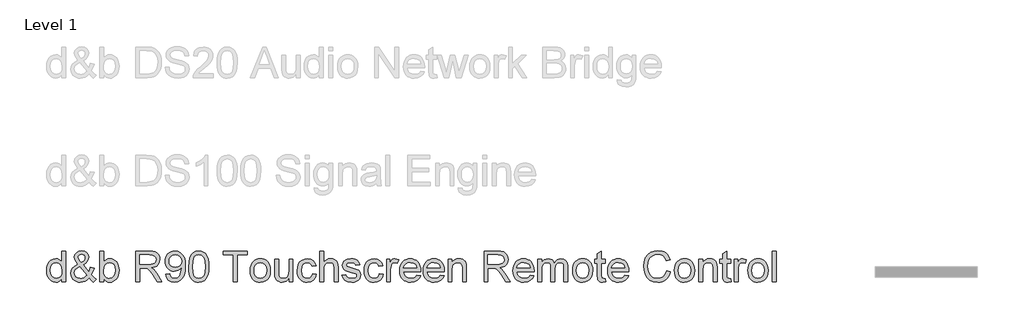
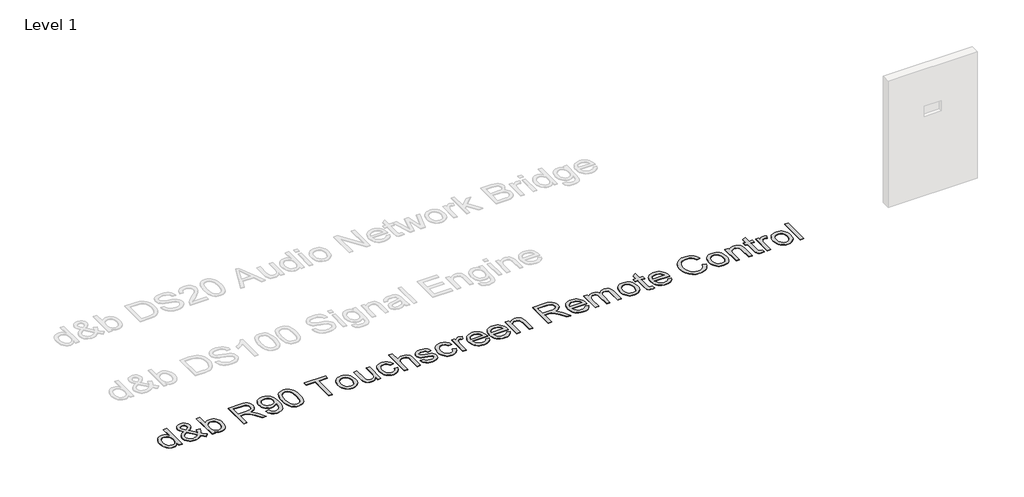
# One storey, part 2 of 14: 1 proxy.
"""IFC4 building model written with IfcOpenShell, lengths in millimetres."""

from ifc_helpers import new_model, si_unit, origin, origin_with_axes, place, context, project, spatial, polyline, outline, extrude, element, save

model = new_model("IFC4")

# Units and contexts
model_context = context("Model", 3, world=origin())
ifc_project = project(units=[si_unit("LENGTHUNIT", "METRE", prefix="MILLI")], contexts=[model_context])

# Site, building, storey
site = spatial("IfcSite", under=ifc_project)
building = spatial("IfcBuilding", under=site)
storey = spatial("IfcBuildingStorey", under=building, Name="Level 1", Elevation=0.0)

# Proxy
placement = place(None, origin())
element("IfcBuildingElementProxy", 1, Name="300mm Arial", ObjectType="300mm Arial", at=placement, inside=storey, context=model_context, shape_type="SweptSolid", body=[
    extrude(outline(polyline([(-19163.9314906, -1492.2909582), (-19163.9314906, -1456.7535575), (-19175.2024752, -1474.3613095), (-19188.8554958, -1486.9382752), (-19204.8905522, -1494.4844546), (-19223.3076446, -1496.9998477), (-19247.6614327, -1493.357816), (-19269.9550816, -1482.4317207), (-19288.827428, -1464.9849171), (-19302.9173084, -1441.7807603), (-19311.691294, -1413.7573493), (-19314.6159558, -1381.8527832), (-19311.9212202, -1350.3436904), (-19303.8370134, -1321.888018), (-19290.3725323, -1298.104447), (-19271.5369742, -1280.6116582), (-19248.7558816, -1269.8511098), (-19223.4547974, -1266.2642604), (-19205.0239095, -1268.8302373), (-19188.7267371, -1276.528168), (-19174.9127682, -1288.327983), (-19163.9314906, -1303.1996127), (-19163.9314906, -1190.9220277), (-19126.2603743, -1190.9220277), (-19126.2603743, -1492.2909582), (-19163.9314906, -1492.2909582)]), holes=[polyline([(-19276.9448395, -1381.7056304), (-19272.6958025, -1415.7807002), (-19259.9486913, -1440.0149267), (-19241.4258329, -1454.5002802), (-19219.8495539, -1459.3287314), (-19198.2824719, -1454.7210094), (-19180.228663, -1440.8978435), (-19168.0057837, -1417.6017161), (-19163.9314906, -1384.57511), (-19168.0793601, -1348.4674922), (-19180.5229686, -1323.4331224), (-19199.03663, -1308.8098131), (-19221.3946582, -1303.9353767), (-19243.1916665, -1308.616675), (-19261.0523373, -1322.6605702), (-19272.971714, -1346.784432), (-19276.9448395, -1381.7056304)])]), origin_with_axes(), (0.0, 0.0, 1.0), 5.0),
    extrude(outline(polyline([(-18896.9227385, -1455.0613003), (-18916.0709963, -1473.4094148), (-18936.8747232, -1486.5152109), (-18959.3707072, -1494.3786885), (-18983.5957366, -1496.9998477), (-19005.5766858, -1495.0592702), (-19025.166402, -1489.2375376), (-19042.3648853, -1479.53465), (-19057.1721356, -1465.9506073), (-19073.6716431, -1439.150404), (-19079.1714789, -1409.3703565), (-19074.7476979, -1382.9748233), (-19061.4763549, -1359.2648287), (-19039.4126323, -1338.2587668), (-19008.6117122, -1319.9750317), (-19034.9152749, -1281.862457), (-19041.5003626, -1253.6091197), (-19036.3132265, -1228.1700798), (-19020.7518181, -1206.2994951), (-18997.3361291, -1191.2347274), (-18968.5861512, -1186.2131382), (-18941.2341248, -1191.0139982), (-18919.3635402, -1205.4165784), (-18905.0161424, -1226.551399), (-18900.2336765, -1251.5489805), (-18903.7745407, -1272.5366484), (-18914.3971333, -1291.9424236), (-18932.1014543, -1309.7663063), (-18956.8875037, -1326.0082964), (-18902.367392, -1393.9193127), (-18893.0783716, -1374.5135374), (-18886.1070078, -1352.2014944), (-18848.4358915, -1360.3684747), (-18860.0241744, -1395.262082), (-18875.070548, -1422.3933791), (-18853.6598159, -1447.3725666), (-18829.6003334, -1468.0107465), (-18857.8536706, -1496.9998477), (-18877.0755049, -1479.4150884), (-18896.9227385, -1455.0613003)]), holes=[polyline([(-18922.1594434, -1427.911609), (-18989.4082721, -1343.9609377), (-19015.0956324, -1360.3500806), (-19030.7949965, -1375.5252129), (-19038.8240211, -1390.0197635), (-19041.5003626, -1404.3671613), (-19037.8399368, -1422.1358617), (-19026.8586592, -1440.5667497), (-19009.1635352, -1454.638236), (-18985.3615701, -1459.3287314), (-18968.3194367, -1457.1398336), (-18950.7438744, -1450.5731399), (-18934.6766283, -1440.5299615), (-18922.1594434, -1427.911609)]), polyline([(-18975.9437911, -1302.2431195), (-18956.2437102, -1289.7443287), (-18944.9681271, -1278.8826128), (-18939.6706263, -1268.3152025), (-18937.9047928, -1256.6993285), (-18940.2316464, -1243.5383501), (-18947.2122072, -1233.0445162), (-18957.6876471, -1226.1743199), (-18970.4991375, -1223.8842545), (-18983.5865395, -1226.1559258), (-18994.3011026, -1232.9709398), (-19001.4472104, -1243.0601035), (-19003.8292463, -1255.1542241), (-19000.5918847, -1268.9497989), (-18990.8062237, -1284.2904781), (-18975.9437911, -1302.2431195)])]), origin_with_axes(), (0.0, 0.0, 1.0), 5.0),
    extrude(outline(polyline([(-18754.2581008, -1492.2909582), (-18791.9292171, -1492.2909582), (-18791.9292171, -1190.9220277), (-18754.2581008, -1190.9220277), (-18754.2581008, -1302.6845779), (-18741.8696746, -1286.750689), (-18727.8809617, -1275.3693397), (-18712.2919622, -1268.5405302), (-18695.1026759, -1266.2642604), (-18675.6969007, -1268.3152025), (-18657.3579832, -1274.4680288), (-18641.1343873, -1284.3364634), (-18628.0745764, -1297.5342299), (-18617.8382599, -1313.9325699), (-18610.0851469, -1333.4027245), (-18605.2015134, -1355.1353533), (-18603.5736355, -1378.3211161), (-18605.2589949, -1405.0753342), (-18610.3150731, -1428.6105848), (-18618.7418701, -1448.926868), (-18630.5393858, -1466.0241837), (-18644.7005433, -1479.5760367), (-18660.2182658, -1489.2559317), (-18677.092553, -1495.0638687), (-18695.3234051, -1496.9998477), (-18713.0783099, -1494.5028487), (-18728.8190608, -1487.0118516), (-18742.5456577, -1474.5268563), (-18754.2581008, -1457.0478631), (-18754.2581008, -1492.2909582)]), holes=[polyline([(-18754.2581008, -1380.0869497), (-18751.6829268, -1411.5040721), (-18743.9574049, -1432.7676514), (-18734.8293329, -1444.3881239), (-18724.2205359, -1452.6884614), (-18712.1310138, -1457.6686639), (-18698.5607667, -1459.3287314), (-18676.8189408, -1454.4359009), (-18658.2409, -1439.7574093), (-18645.4937889, -1415.3852271), (-18641.2447519, -1381.4113248), (-18645.3190449, -1346.9407819), (-18657.5419242, -1322.8445112), (-18675.5405509, -1308.6626603), (-18696.9420859, -1303.9353767), (-18718.6839118, -1308.8282072), (-18737.2619526, -1323.5066988), (-18750.0090637, -1347.4374226), (-18754.2581008, -1380.0869497)])]), origin_with_axes(), (0.0, 0.0, 1.0), 5.0),
    extrude(outline(polyline([(-18438.7625017, -1492.2909582), (-18438.7625017, -1190.9220277), (-18308.9001574, -1190.9220277), (-18273.9973531, -1192.9545758), (-18248.6042984, -1199.0522198), (-18230.0446517, -1210.3094089), (-18215.6420716, -1227.8205919), (-18206.3990365, -1249.5348266), (-18203.3180248, -1273.4011711), (-18208.4223875, -1303.0892481), (-18223.7354755, -1327.7005535), (-18235.3352547, -1337.7299364), (-18249.7171414, -1345.7451654), (-18286.8272377, -1355.7331616), (-18265.4165056, -1371.846393), (-18234.8823, -1410.6211553), (-18184.6296194, -1492.2909582), (-18228.4075769, -1492.2909582), (-18267.6237975, -1429.8245954), (-18295.9507112, -1388.4746592), (-18315.8531271, -1368.9401252), (-18333.7689803, -1361.7664263), (-18355.6211708, -1360.4420511), (-18401.0913854, -1360.4420511), (-18401.0913854, -1492.2909582), (-18438.7625017, -1492.2909582)]), holes=[polyline([(-18401.0913854, -1322.7709348), (-18316.7728321, -1322.7709348), (-18292.5569998, -1321.4373626), (-18273.7674269, -1317.4366459), (-18259.6223642, -1310.5020703), (-18249.3400624, -1300.3669213), (-18243.0768714, -1288.1072538), (-18240.9891411, -1274.7991226), (-18244.9714637, -1256.423417), (-18256.9184315, -1241.6161667), (-18277.473838, -1231.8488997), (-18307.2814766, -1228.593144), (-18401.0913854, -1228.593144), (-18401.0913854, -1322.7709348)])]), origin_with_axes(), (0.0, 0.0, 1.0), 5.0),
    extrude(outline(polyline([(-18146.8113503, -1416.9487256), (-18109.140234, -1412.239836), (-18102.7022991, -1433.622977), (-18092.2176622, -1448.181907), (-18077.9438408, -1456.5420253), (-18060.1383523, -1459.3287314), (-18044.1630766, -1457.5353067), (-18029.6409349, -1452.1550325), (-18017.5744054, -1443.7765201), (-18008.9659667, -1432.9883806), (-17996.6419199, -1400.246883), (-17991.1972664, -1356.542502), (-17991.4179956, -1349.1848621), (-18004.4686093, -1365.1141525), (-18021.547531, -1377.7325049), (-18041.4223558, -1385.9546675), (-18062.860679, -1388.6953883), (-18080.7558388, -1387.0215253), (-18097.2116603, -1381.999936), (-18112.2281435, -1373.6306206), (-18125.8052884, -1361.9135791), (-18137.0555797, -1347.4604152), (-18145.091502, -1330.8827328), (-18149.9130554, -1312.1805319), (-18151.5202399, -1291.3538124), (-18149.8348805, -1269.8327157), (-18144.7788023, -1250.518911), (-18136.3520054, -1233.4123982), (-18124.5544896, -1218.5131774), (-18110.2185881, -1206.4420494), (-18094.1766339, -1197.8198152), (-18076.4286269, -1192.6464746), (-18056.9745671, -1190.9220277), (-18028.8775797, -1194.8583651), (-18003.300584, -1206.6673771), (-17981.908246, -1225.7604527), (-17966.3652317, -1251.5489805), (-17956.9014674, -1287.1967459), (-17953.7468793, -1335.8675338), (-17956.8922703, -1387.4721807), (-17966.3284435, -1427.359786), (-17981.9726253, -1457.3329716), (-18003.7420424, -1479.1943592), (-18030.6985956, -1492.5484756), (-18061.9041858, -1496.9998477), (-18094.1122545, -1491.7483322), (-18119.8088119, -1475.9937858), (-18137.7798474, -1450.7294898), (-18146.8113503, -1416.9487256)]), holes=[polyline([(-17991.4179956, -1290.4708956), (-17995.4830916, -1264.9398852), (-18007.6783798, -1245.2949866), (-18026.6059084, -1232.7686047), (-18050.867726, -1228.593144), (-18076.0308545, -1233.0905014), (-18096.1907878, -1246.5825736), (-18109.4345396, -1267.2299506), (-18113.8491236, -1293.1932224), (-18109.6736629, -1316.4709556), (-18097.147281, -1334.9478289), (-18077.4839883, -1347.0051612), (-18051.8977956, -1351.024272), (-18027.829116, -1347.0051612), (-18008.4509319, -1334.9478289), (-17995.6762297, -1315.790374), (-17991.4179956, -1290.4708956)])]), origin_with_axes(), (0.0, 0.0, 1.0), 5.0),
    extrude(outline(polyline([(-17920.7846525, -1344.0345141), (-17918.0163405, -1295.7959875), (-17909.7114044, -1257.3247279), (-17895.9526178, -1228.032124), (-17876.8227541, -1207.3295647), (-17852.1838574, -1195.023912), (-17821.8979722, -1190.9220277), (-17798.6846183, -1193.3500489), (-17777.8992856, -1200.6341124), (-17760.5168613, -1212.4891097), (-17747.5122328, -1228.6299322), (-17737.6897835, -1248.9186243), (-17729.853897, -1273.2172301), (-17724.7219432, -1304.0733324), (-17723.0112919, -1344.0345141), (-17725.7520128, -1391.9971293), (-17733.9741753, -1430.3764184), (-17747.6501885, -1459.6966134), (-17766.7524611, -1480.4819461), (-17791.44654, -1492.8703723), (-17821.8979722, -1496.9998477), (-17842.6465167, -1495.206423), (-17861.0406165, -1489.8261488), (-17877.0802715, -1480.8590252), (-17890.7654817, -1468.3050521), (-17903.8988689, -1445.6113315), (-17913.2798598, -1417.3350017), (-17918.9084543, -1383.4760625), (-17920.7846525, -1344.0345141)]), holes=[polyline([(-17883.1135362, -1343.9609377), (-17878.6989522, -1403.2175301), (-17873.1807223, -1423.4855288), (-17865.4552004, -1437.5133291), (-17845.7367255, -1453.8748808), (-17821.8979722, -1459.3287314), (-17798.0592189, -1453.8564867), (-17778.340744, -1437.4397527), (-17770.6152221, -1423.3889598), (-17765.0969921, -1403.1255596), (-17760.6824082, -1343.9609377), (-17764.9498393, -1286.0379176), (-17770.2841283, -1265.8365975), (-17777.7521328, -1251.4754041), (-17797.4338195, -1234.3137091), (-17822.3394306, -1228.593144), (-17845.9206665, -1233.6331274), (-17864.8665892, -1248.7530774), (-17872.8496285, -1264.3880622), (-17878.5517995, -1285.4677005), (-17883.1135362, -1343.9609377)])]), origin_with_axes(), (0.0, 0.0, 1.0), 5.0),
    extrude(outline(polyline([(-17482.8579254, -1492.2909582), (-17482.8579254, -1228.593144), (-17581.7446057, -1228.593144), (-17581.7446057, -1190.9220277), (-17346.3001288, -1190.9220277), (-17346.3001288, -1228.593144), (-17445.1868091, -1228.593144), (-17445.1868091, -1492.2909582), (-17482.8579254, -1492.2909582)])), origin_with_axes(), (0.0, 0.0, 1.0), 5.0),
    extrude(outline(polyline([(-17318.0467916, -1381.632054), (-17316.0096451, -1352.9694481), (-17309.8982054, -1328.2707706), (-17299.7124727, -1307.5360217), (-17285.4524468, -1290.7652012), (-17271.095852, -1280.0460396), (-17255.249335, -1272.3894956), (-17237.912896, -1267.7955692), (-17219.0865349, -1266.2642604), (-17198.3035014, -1268.1289622), (-17179.5116293, -1273.7230678), (-17162.7109184, -1283.0465771), (-17147.9013688, -1296.0994902), (-17135.814146, -1312.4403485), (-17127.1804155, -1331.6276938), (-17122.0001771, -1353.6615261), (-17120.273431, -1378.5418453), (-17123.3268516, -1416.5992377), (-17132.4871132, -1445.5699448), (-17147.4875016, -1467.2657855), (-17168.0613022, -1483.4985785), (-17192.4978637, -1493.6245304), (-17219.0865349, -1496.9998477), (-17240.173071, -1495.1420437), (-17259.1396871, -1489.5686314), (-17275.9863832, -1480.279611), (-17290.7131594, -1467.2749825), (-17302.6716235, -1450.775475), (-17311.2133835, -1431.0018178), (-17316.3384396, -1407.9540108), (-17318.0467916, -1381.632054)]), holes=[polyline([(-17280.3756753, -1381.5584776), (-17276.0162736, -1415.6519415), (-17262.9380687, -1439.9413503), (-17243.256382, -1454.4818861), (-17219.0865349, -1459.3287314), (-17195.0270524, -1454.454295), (-17175.3821539, -1439.8309857), (-17162.3039489, -1415.2196802), (-17157.9445473, -1380.3812553), (-17162.3315401, -1347.2810727), (-17175.4925185, -1323.3227578), (-17195.1650082, -1308.7822219), (-17219.0865349, -1303.9353767), (-17243.256382, -1308.7638278), (-17262.9380687, -1323.2491814), (-17276.0162736, -1347.4834078), (-17280.3756753, -1381.5584776)])]), origin_with_axes(), (0.0, 0.0, 1.0), 5.0),
    extrude(outline(polyline([(-16936.626739, -1492.2909582), (-16936.626739, -1454.2519599), (-16950.2567669, -1472.9541608), (-16966.130875, -1486.3128758), (-16984.2490633, -1494.3281047), (-17004.6113317, -1496.9998477), (-17022.9594462, -1495.1236496), (-17040.0383678, -1489.495055), (-17054.3673716, -1481.0337691), (-17064.4657323, -1470.6594969), (-17075.6861332, -1442.9211944), (-17077.8934251, -1407.8988285), (-17077.8934251, -1270.9731499), (-17040.2223088, -1270.9731499), (-17040.2223088, -1390.1669163), (-17037.9414405, -1428.5737966), (-17032.4508017, -1441.3852871), (-17023.0422197, -1451.1249629), (-17010.3410938, -1457.2777893), (-16994.9728234, -1459.3287314), (-16978.7216363, -1457.2318041), (-16963.5189128, -1450.9410219), (-16950.9833339, -1441.0357992), (-16942.7335801, -1428.09555), (-16938.1534493, -1410.3728349), (-16936.626739, -1386.1202144), (-16936.626739, -1270.9731499), (-16898.9556227, -1270.9731499), (-16898.9556227, -1492.2909582), (-16936.626739, -1492.2909582)])), origin_with_axes(), (0.0, 0.0, 1.0), 5.0),
    extrude(outline(polyline([(-16705.8911516, -1412.239836), (-16668.2200353, -1416.9487256), (-16678.7230663, -1450.4535783), (-16698.4599353, -1475.7730566), (-16725.5728384, -1491.6931499), (-16758.2039713, -1496.9998477), (-16779.3318942, -1495.1489414), (-16798.2755177, -1489.5962226), (-16815.0348418, -1480.3416911), (-16829.6098666, -1467.3853471), (-16841.4073823, -1450.9709123), (-16849.8341793, -1431.3421086), (-16854.8902575, -1408.498936), (-16856.5756168, -1382.4413944), (-16853.6969402, -1348.9181476), (-16845.0609104, -1319.8646671), (-16830.5295716, -1296.4029928), (-16809.9649681, -1279.655165), (-16785.3628596, -1269.6119865), (-16758.7190061, -1266.2642604), (-16726.8880165, -1270.8627853), (-16701.4397795, -1284.6583601), (-16683.1836355, -1306.9152208), (-16672.9289249, -1336.8976034), (-16710.6000412, -1341.606493), (-16717.4334492, -1325.1713648), (-16728.0744359, -1313.3899439), (-16741.9343901, -1306.2990185), (-16758.4247005, -1303.9353767), (-16782.7692916, -1308.5890839), (-16802.0922934, -1322.5502056), (-16814.7014487, -1346.5728999), (-16818.9045005, -1381.4113248), (-16814.7934192, -1416.7187993), (-16802.4601754, -1440.8242671), (-16783.4866615, -1454.7026153), (-16759.4547701, -1459.3287314), (-16739.9478273, -1456.4408578), (-16723.9541576, -1447.7772368), (-16712.3198895, -1433.1171393), (-16705.8911516, -1412.239836)])), origin_with_axes(), (0.0, 0.0, 1.0), 5.0),
    extrude(outline(polyline([(-16635.2578086, -1492.2909582), (-16635.2578086, -1190.9220277), (-16597.5866922, -1190.9220277), (-16597.5866922, -1301.7280847), (-16583.7497307, -1286.2126615), (-16568.2113149, -1275.1302164), (-16550.9714449, -1268.4807494), (-16532.0301207, -1266.2642604), (-16509.2766193, -1268.6830845), (-16489.7236913, -1275.9395568), (-16474.3278298, -1287.4634603), (-16464.045528, -1302.6845779), (-16458.2513866, -1323.5986693), (-16456.3200061, -1352.2014944), (-16456.3200061, -1492.2909582), (-16493.9911224, -1492.2909582), (-16493.9911224, -1356.1010436), (-16496.9893607, -1332.5198077), (-16505.9840754, -1316.3697881), (-16520.4786261, -1307.0439795), (-16539.9763718, -1303.9353767), (-16555.8964651, -1306.032304), (-16570.8416712, -1312.3230862), (-16583.2209003, -1322.2007177), (-16591.4430629, -1335.0581935), (-16596.0507849, -1352.1463121), (-16597.5866922, -1374.7158725), (-16597.5866922, -1492.2909582), (-16635.2578086, -1492.2909582)])), origin_with_axes(), (0.0, 0.0, 1.0), 5.0),
    extrude(outline(polyline([(-16418.6488898, -1426.3665047), (-16380.9777735, -1421.6576151), (-16375.0364793, -1437.7708465), (-16363.5401669, -1449.6166468), (-16346.41526, -1456.9007103), (-16323.5881822, -1459.3287314), (-16301.0370159, -1457.1030454), (-16285.1813019, -1450.4259871), (-16275.8003111, -1440.7506907), (-16272.6733141, -1429.5302898), (-16275.8187052, -1419.9285697), (-16285.2548783, -1412.607718), (-16324.0296406, -1401.8655638), (-16380.7570443, -1383.4346758), (-16395.1136391, -1374.1732466), (-16405.5155026, -1361.9135791), (-16411.8338758, -1347.4374226), (-16413.9400003, -1331.5265263), (-16412.2477431, -1316.9308081), (-16407.1709715, -1303.4571301), (-16399.1695381, -1291.638921), (-16388.7032954, -1282.0096097), (-16364.7541775, -1270.8627853), (-16332.3437737, -1266.2642604), (-16307.8244387, -1268.1128674), (-16286.5056771, -1273.6586885), (-16269.3623761, -1282.3590976), (-16257.3694231, -1293.671469), (-16249.423172, -1308.4327341), (-16244.4199769, -1327.4798244), (-16282.0910932, -1332.1887139), (-16286.845968, -1320.3337166), (-16296.25455, -1311.4033812), (-16310.4088098, -1305.8023778), (-16329.4007178, -1303.9353767), (-16351.0321791, -1305.7196043), (-16365.4531533, -1311.0722874), (-16373.5649513, -1318.7978093), (-16376.2688839, -1327.7005535), (-16371.7807236, -1338.663437), (-16357.7276314, -1346.9775701), (-16325.2804394, -1354.9973976), (-16269.9877755, -1372.7293098), (-16255.3828603, -1381.2089897), (-16244.3096123, -1392.8156667), (-16237.3290514, -1407.5861288), (-16235.0021978, -1425.5571643), (-16237.7337216, -1444.135205), (-16245.9282931, -1461.6095998), (-16259.2732124, -1476.6099881), (-16277.45578, -1487.7660097), (-16299.4183352, -1494.6913882), (-16324.103217, -1496.9998477), (-16362.087033, -1492.5484756), (-16389.8069414, -1479.1943592), (-16408.3114057, -1457.0846513), (-16418.6488898, -1426.3665047)])), origin_with_axes(), (0.0, 0.0, 1.0), 5.0),
    extrude(outline(polyline([(-16051.3555058, -1412.239836), (-16013.6843895, -1416.9487256), (-16024.1874205, -1450.4535783), (-16043.9242895, -1475.7730566), (-16071.0371925, -1491.6931499), (-16103.6683255, -1496.9998477), (-16124.7962484, -1495.1489414), (-16143.7398718, -1489.5962226), (-16160.499196, -1480.3416911), (-16175.0742208, -1467.3853471), (-16186.8717365, -1450.9709123), (-16195.2985335, -1431.3421086), (-16200.3546116, -1408.498936), (-16202.039971, -1382.4413944), (-16199.1612944, -1348.9181476), (-16190.5252646, -1319.8646671), (-16175.9939258, -1296.4029928), (-16155.4293222, -1279.655165), (-16130.8272138, -1269.6119865), (-16104.1833603, -1266.2642604), (-16072.3523707, -1270.8627853), (-16046.9041337, -1284.6583601), (-16028.6479897, -1306.9152208), (-16018.393279, -1336.8976034), (-16056.0643953, -1341.606493), (-16062.8978034, -1325.1713648), (-16073.5387901, -1313.3899439), (-16087.3987443, -1306.2990185), (-16103.8890547, -1303.9353767), (-16128.2336457, -1308.5890839), (-16147.5566475, -1322.5502056), (-16160.1658029, -1346.5728999), (-16164.3688547, -1381.4113248), (-16160.2577734, -1416.7187993), (-16147.9245295, -1440.8242671), (-16128.9510156, -1454.7026153), (-16104.9191243, -1459.3287314), (-16085.4121815, -1456.4408578), (-16069.4185118, -1447.7772368), (-16057.7842437, -1433.1171393), (-16051.3555058, -1412.239836)])), origin_with_axes(), (0.0, 0.0, 1.0), 5.0),
    extrude(outline(polyline([(-15980.7221627, -1492.2909582), (-15980.7221627, -1270.9731499), (-15947.759936, -1270.9731499), (-15947.759936, -1303.7146475), (-15935.5830419, -1284.7319365), (-15924.3626411, -1273.5483239), (-15913.105452, -1268.0852762), (-15900.8181934, -1266.2642604), (-15882.0562116, -1269.1705281), (-15862.9999243, -1277.8893314), (-15875.5814885, -1311.6608986), (-15888.8252403, -1305.8667571), (-15902.0689922, -1303.9353767), (-15913.3169842, -1305.7931807), (-15923.3693597, -1311.366593), (-15931.4903547, -1320.232549), (-15936.9442053, -1331.9679847), (-15941.5243361, -1353.0108348), (-15943.0510464, -1375.9666713), (-15943.0510464, -1492.2909582), (-15980.7221627, -1492.2909582)])), origin_with_axes(), (0.0, 0.0, 1.0), 5.0),
    extrude(outline(polyline([(-15684.5035802, -1426.3665047), (-15647.5682279, -1431.0753942), (-15660.8763591, -1458.9056671), (-15682.1123472, -1479.709394), (-15710.7979458, -1492.6772343), (-15746.4549082, -1496.9998477), (-15769.8292105, -1495.1351459), (-15790.6559299, -1489.5410403), (-15808.9350666, -1480.217531), (-15824.6666204, -1467.1646179), (-15837.3171625, -1450.7455846), (-15846.353264, -1431.3237145), (-15851.7749249, -1408.8990077), (-15853.5821452, -1383.471464), (-15851.7565308, -1357.1816969), (-15846.2796876, -1334.0097298), (-15837.1516156, -1313.9555625), (-15824.3723148, -1297.0191952), (-15808.6821477, -1283.5639112), (-15790.8214768, -1273.9529941), (-15770.7903022, -1268.1864438), (-15748.5886238, -1266.2642604), (-15727.102016, -1268.1818453), (-15707.6709489, -1273.9346), (-15690.2954224, -1283.5225245), (-15674.9754365, -1296.9456188), (-15662.469748, -1313.8451979), (-15653.5371133, -1333.862577), (-15648.1775325, -1356.9977559), (-15646.3910055, -1383.2507348), (-15646.6117347, -1393.4042779), (-15815.9110289, -1393.4042779), (-15809.3903205, -1421.6024328), (-15794.2427794, -1442.3325832), (-15772.3813918, -1455.0796944), (-15745.7191442, -1459.3287314), (-15725.6695755, -1457.3605627), (-15708.7837919, -1451.4560567), (-15695.0617935, -1441.2473314), (-15684.5035802, -1426.3665047)]), holes=[polyline([(-15815.9110289, -1355.7331616), (-15684.0621218, -1355.7331616), (-15689.1572875, -1335.8307456), (-15699.1452836, -1321.5937124), (-15721.1078387, -1308.3499606), (-15748.7357766, -1303.9353767), (-15774.1288313, -1307.4578468), (-15795.1256962, -1318.0252571), (-15809.7214143, -1334.4971734), (-15815.9110289, -1355.7331616)])]), origin_with_axes(), (0.0, 0.0, 1.0), 5.0),
    extrude(outline(polyline([(-15453.7679928, -1426.3665047), (-15416.8326405, -1431.0753942), (-15430.1407717, -1458.9056671), (-15451.3767599, -1479.709394), (-15480.0623584, -1492.6772343), (-15515.7193208, -1496.9998477), (-15539.0936231, -1495.1351459), (-15559.9203425, -1489.5410403), (-15578.1994792, -1480.217531), (-15593.931033, -1467.1646179), (-15606.5815751, -1450.7455846), (-15615.6176766, -1431.3237145), (-15621.0393375, -1408.8990077), (-15622.8465578, -1383.471464), (-15621.0209434, -1357.1816969), (-15615.5441002, -1334.0097298), (-15606.4160282, -1313.9555625), (-15593.6367274, -1297.0191952), (-15577.9465603, -1283.5639112), (-15560.0858894, -1273.9529941), (-15540.0547148, -1268.1864438), (-15517.8530364, -1266.2642604), (-15496.3664286, -1268.1818453), (-15476.9353615, -1273.9346), (-15459.559835, -1283.5225245), (-15444.2398492, -1296.9456188), (-15431.7341606, -1313.8451979), (-15422.8015259, -1333.862577), (-15417.4419451, -1356.9977559), (-15415.6554181, -1383.2507348), (-15415.8761473, -1393.4042779), (-15585.1754415, -1393.4042779), (-15578.6547332, -1421.6024328), (-15563.507192, -1442.3325832), (-15541.6458044, -1455.0796944), (-15514.9835568, -1459.3287314), (-15494.9339881, -1457.3605627), (-15478.0482045, -1451.4560567), (-15464.3262061, -1441.2473314), (-15453.7679928, -1426.3665047)]), holes=[polyline([(-15585.1754415, -1355.7331616), (-15453.3265344, -1355.7331616), (-15458.4217001, -1335.8307456), (-15468.4096962, -1321.5937124), (-15490.3722514, -1308.3499606), (-15518.0001892, -1303.9353767), (-15543.3932439, -1307.4578468), (-15564.3901088, -1318.0252571), (-15578.9858269, -1334.4971734), (-15585.1754415, -1355.7331616)])]), origin_with_axes(), (0.0, 0.0, 1.0), 5.0),
    extrude(outline(polyline([(-15377.9843018, -1492.2909582), (-15377.9843018, -1270.9731499), (-15340.3131855, -1270.9731499), (-15340.3131855, -1301.8752375), (-15327.2257836, -1286.295435), (-15311.5080253, -1275.1670046), (-15293.1599108, -1268.4899464), (-15272.18144, -1266.2642604), (-15253.6125963, -1268.0576851), (-15236.6072511, -1273.4379593), (-15222.4254002, -1281.7336983), (-15212.3270394, -1292.2735174), (-15201.0330622, -1319.9750317), (-15199.0464994, -1356.3953492), (-15199.0464994, -1492.2909582), (-15236.7176157, -1492.2909582), (-15236.7176157, -1361.4721207), (-15241.0586232, -1328.1420119), (-15247.0642968, -1318.2183951), (-15256.3993024, -1310.5204644), (-15268.3646643, -1305.5816486), (-15282.2614067, -1303.9353767), (-15304.3251294, -1307.6325907), (-15323.1330964, -1318.7242329), (-15330.6493854, -1327.7787285), (-15336.0181632, -1340.1533591), (-15340.3131855, -1374.8630253), (-15340.3131855, -1492.2909582), (-15377.9843018, -1492.2909582)])), origin_with_axes(), (0.0, 0.0, 1.0), 5.0),
    extrude(outline(polyline([(-15024.8175865, -1492.2909582), (-15024.8175865, -1190.9220277), (-14894.9552422, -1190.9220277), (-14860.0524379, -1192.9545758), (-14834.6593832, -1199.0522198), (-14816.0997365, -1210.3094089), (-14801.6971564, -1227.8205919), (-14792.4541213, -1249.5348266), (-14789.3731096, -1273.4011711), (-14794.4774722, -1303.0892481), (-14809.7905603, -1327.7005535), (-14821.3903394, -1337.7299364), (-14835.7722262, -1345.7451654), (-14872.8823225, -1355.7331616), (-14851.4715903, -1371.846393), (-14820.9373847, -1410.6211553), (-14770.6847042, -1492.2909582), (-14814.4626616, -1492.2909582), (-14853.6788823, -1429.8245954), (-14882.0057959, -1388.4746592), (-14901.9082119, -1368.9401252), (-14919.824065, -1361.7664263), (-14941.6762556, -1360.4420511), (-14987.1464702, -1360.4420511), (-14987.1464702, -1492.2909582), (-15024.8175865, -1492.2909582)]), holes=[polyline([(-14987.1464702, -1322.7709348), (-14902.8279169, -1322.7709348), (-14878.6120845, -1321.4373626), (-14859.8225116, -1317.4366459), (-14845.6774489, -1310.5020703), (-14835.3951471, -1300.3669213), (-14829.1319562, -1288.1072538), (-14827.0442259, -1274.7991226), (-14831.0265485, -1256.423417), (-14842.9735162, -1241.6161667), (-14863.5289227, -1231.8488997), (-14893.3365614, -1228.593144), (-14987.1464702, -1228.593144), (-14987.1464702, -1322.7709348)])]), origin_with_axes(), (0.0, 0.0, 1.0), 5.0),
    extrude(outline(polyline([(-14573.2056492, -1426.3665047), (-14536.2702969, -1431.0753942), (-14549.578428, -1458.9056671), (-14570.8144162, -1479.709394), (-14599.5000148, -1492.6772343), (-14635.1569772, -1496.9998477), (-14658.5312794, -1495.1351459), (-14679.3579989, -1489.5410403), (-14697.6371355, -1480.217531), (-14713.3686893, -1467.1646179), (-14726.0192315, -1450.7455846), (-14735.055333, -1431.3237145), (-14740.4769939, -1408.8990077), (-14742.2842142, -1383.471464), (-14740.4585998, -1357.1816969), (-14734.9817566, -1334.0097298), (-14725.8536846, -1313.9555625), (-14713.0743838, -1297.0191952), (-14697.3842167, -1283.5639112), (-14679.5235458, -1273.9529941), (-14659.4923712, -1268.1864438), (-14637.2906927, -1266.2642604), (-14615.804085, -1268.1818453), (-14596.3730178, -1273.9346), (-14578.9974913, -1283.5225245), (-14563.6775055, -1296.9456188), (-14551.1718169, -1313.8451979), (-14542.2391822, -1333.862577), (-14536.8796014, -1356.9977559), (-14535.0930745, -1383.2507348), (-14535.3138037, -1393.4042779), (-14704.6130979, -1393.4042779), (-14698.0923895, -1421.6024328), (-14682.9448483, -1442.3325832), (-14661.0834608, -1455.0796944), (-14634.4212132, -1459.3287314), (-14614.3716444, -1457.3605627), (-14597.4858609, -1451.4560567), (-14583.7638624, -1441.2473314), (-14573.2056492, -1426.3665047)]), holes=[polyline([(-14704.6130979, -1355.7331616), (-14572.7641908, -1355.7331616), (-14577.8593564, -1335.8307456), (-14587.8473526, -1321.5937124), (-14609.8099077, -1308.3499606), (-14637.4378455, -1303.9353767), (-14662.8309003, -1307.4578468), (-14683.8277651, -1318.0252571), (-14698.4234833, -1334.4971734), (-14704.6130979, -1355.7331616)])]), origin_with_axes(), (0.0, 0.0, 1.0), 5.0),
    extrude(outline(polyline([(-14497.4219582, -1492.2909582), (-14497.4219582, -1270.9731499), (-14459.7508419, -1270.9731499), (-14459.7508419, -1307.3934674), (-14448.4200764, -1290.6640337), (-14433.8519494, -1277.5582376), (-14416.5431015, -1269.0877547), (-14396.9901735, -1266.2642604), (-14376.0392939, -1269.142937), (-14359.2454808, -1277.7789668), (-14346.7007048, -1291.6021328), (-14338.4969363, -1310.0422178), (-14324.7657408, -1290.8893614), (-14309.1031648, -1277.2087497), (-14291.5092084, -1269.0003827), (-14271.9838715, -1266.2642604), (-14243.666155, -1270.8168), (-14222.7244724, -1284.4744191), (-14209.7842232, -1307.6049996), (-14205.4708068, -1340.5764234), (-14205.4708068, -1492.2909582), (-14243.1419231, -1492.2909582), (-14243.1419231, -1356.7632312), (-14246.6368021, -1325.3093206), (-14251.5480267, -1316.6365025), (-14259.2919427, -1309.8214886), (-14269.2523477, -1305.4069046), (-14280.8130394, -1303.9353767), (-14301.2212931, -1307.7061671), (-14317.8587563, -1319.0185385), (-14328.9228073, -1338.6450429), (-14332.6108243, -1367.3582326), (-14332.6108243, -1492.2909582), (-14370.2819406, -1492.2909582), (-14370.2819406, -1352.5693764), (-14372.4616415, -1331.2690089), (-14379.0007439, -1316.0754825), (-14390.5062533, -1306.9704031), (-14407.585175, -1303.9353767), (-14422.0981197, -1305.9587276), (-14435.4706302, -1312.0287806), (-14446.50709, -1321.9983826), (-14454.0118827, -1335.720381), (-14458.3161021, -1354.7582743), (-14459.7508419, -1380.6755609), (-14459.7508419, -1492.2909582), (-14497.4219582, -1492.2909582)])), origin_with_axes(), (0.0, 0.0, 1.0), 5.0),
    extrude(outline(polyline([(-14158.3819114, -1381.632054), (-14156.3447649, -1352.9694481), (-14150.2333252, -1328.2707706), (-14140.0475925, -1307.5360217), (-14125.7875667, -1290.7652012), (-14111.4309718, -1280.0460396), (-14095.5844548, -1272.3894956), (-14078.2480158, -1267.7955692), (-14059.4216547, -1266.2642604), (-14038.6386213, -1268.1289622), (-14019.8467491, -1273.7230678), (-14003.0460382, -1283.0465771), (-13988.2364887, -1296.0994902), (-13976.1492659, -1312.4403485), (-13967.5155353, -1331.6276938), (-13962.3352969, -1353.6615261), (-13960.6085508, -1378.5418453), (-13963.6619714, -1416.5992377), (-13972.8222331, -1445.5699448), (-13987.8226214, -1467.2657855), (-14008.396422, -1483.4985785), (-14032.8329835, -1493.6245304), (-14059.4216547, -1496.9998477), (-14080.5081908, -1495.1420437), (-14099.4748069, -1489.5686314), (-14116.3215031, -1480.279611), (-14131.0482792, -1467.2749825), (-14143.0067433, -1450.775475), (-14151.5485034, -1431.0018178), (-14156.6735594, -1407.9540108), (-14158.3819114, -1381.632054)]), holes=[polyline([(-14120.7107951, -1381.5584776), (-14116.3513935, -1415.6519415), (-14103.2731885, -1439.9413503), (-14083.5915018, -1454.4818861), (-14059.4216547, -1459.3287314), (-14035.3621722, -1454.454295), (-14015.7172737, -1439.8309857), (-14002.6390688, -1415.2196802), (-13998.2796671, -1380.3812553), (-14002.6666599, -1347.2810727), (-14015.8276383, -1323.3227578), (-14035.500128, -1308.7822219), (-14059.4216547, -1303.9353767), (-14083.5915018, -1308.7638278), (-14103.2731885, -1323.2491814), (-14116.3513935, -1347.4834078), (-14120.7107951, -1381.5584776)])]), origin_with_axes(), (0.0, 0.0, 1.0), 5.0),
    extrude(outline(polyline([(-13838.1774228, -1460.8738358), (-13833.4685333, -1493.3946042), (-13861.6482941, -1496.9998477), (-13879.7296942, -1495.4363493), (-13893.2125693, -1490.7458538), (-13902.740713, -1483.5169726), (-13908.9579187, -1474.3383168), (-13912.3792212, -1458.5745733), (-13913.5196554, -1431.590429), (-13913.5196554, -1308.6442662), (-13941.7729927, -1308.6442662), (-13941.7729927, -1270.9731499), (-13913.5196554, -1270.9731499), (-13913.5196554, -1217.1888022), (-13875.8485391, -1195.0423061), (-13875.8485391, -1270.9731499), (-13838.1774228, -1270.9731499), (-13838.1774228, -1308.6442662), (-13875.8485391, -1308.6442662), (-13875.8485391, -1430.486783), (-13873.8619764, -1449.9109523), (-13867.4240414, -1456.7903457), (-13854.5849598, -1459.3287314), (-13838.1774228, -1460.8738358)])), origin_with_axes(), (0.0, 0.0, 1.0), 5.0),
    extrude(outline(polyline([(-13645.5544101, -1426.3665047), (-13608.6190578, -1431.0753942), (-13621.927189, -1458.9056671), (-13643.1631772, -1479.709394), (-13671.8487758, -1492.6772343), (-13707.5057381, -1496.9998477), (-13730.8800404, -1495.1351459), (-13751.7067599, -1489.5410403), (-13769.9858965, -1480.217531), (-13785.7174503, -1467.1646179), (-13798.3679924, -1450.7455846), (-13807.4040939, -1431.3237145), (-13812.8257548, -1408.8990077), (-13814.6329751, -1383.471464), (-13812.8073607, -1357.1816969), (-13807.3305175, -1334.0097298), (-13798.2024455, -1313.9555625), (-13785.4231447, -1297.0191952), (-13769.7329776, -1283.5639112), (-13751.8723068, -1273.9529941), (-13731.8411321, -1268.1864438), (-13709.6394537, -1266.2642604), (-13688.1528459, -1268.1818453), (-13668.7217788, -1273.9346), (-13651.3462523, -1283.5225245), (-13636.0262665, -1296.9456188), (-13623.5205779, -1313.8451979), (-13614.5879432, -1333.862577), (-13609.2283624, -1356.9977559), (-13607.4418354, -1383.2507348), (-13607.6625646, -1393.4042779), (-13776.9618588, -1393.4042779), (-13770.4411505, -1421.6024328), (-13755.2936093, -1442.3325832), (-13733.4322217, -1455.0796944), (-13706.7699741, -1459.3287314), (-13686.7204054, -1457.3605627), (-13669.8346218, -1451.4560567), (-13656.1126234, -1441.2473314), (-13645.5544101, -1426.3665047)]), holes=[polyline([(-13776.9618588, -1355.7331616), (-13645.1129518, -1355.7331616), (-13650.2081174, -1335.8307456), (-13660.1961136, -1321.5937124), (-13682.1586687, -1308.3499606), (-13709.7866065, -1303.9353767), (-13735.1796612, -1307.4578468), (-13756.1765261, -1318.0252571), (-13770.7722443, -1334.4971734), (-13776.9618588, -1355.7331616)])]), origin_with_axes(), (0.0, 0.0, 1.0), 5.0),
    extrude(outline(polyline([(-13235.4395619, -1385.1637212), (-13197.7684456, -1394.8758059), (-13205.2226545, -1418.3029912), (-13215.1508699, -1438.7733249), (-13227.5530917, -1456.2868072), (-13242.4293198, -1470.8434379), (-13259.4438621, -1482.2868672), (-13278.2610262, -1490.4607453), (-13298.880812, -1495.3650721), (-13321.3032196, -1496.9998477), (-13364.9984036, -1492.0518349), (-13399.6988728, -1477.2077964), (-13426.296741, -1452.982767), (-13445.6841222, -1419.8917815), (-13457.5207254, -1380.9882606), (-13461.4662598, -1339.3256246), (-13457.0056906, -1295.3821203), (-13443.623983, -1257.4350925), (-13422.0201128, -1226.6893547), (-13392.8930559, -1204.3497206), (-13358.3489365, -1190.7472838), (-13320.4938792, -1186.2131382), (-13279.1899282, -1192.080856), (-13261.221192, -1199.4155033), (-13245.041282, -1209.6840095), (-13230.9169126, -1222.6150616), (-13219.1147984, -1237.9373467), (-13202.4773352, -1275.7556158), (-13240.1484515, -1284.7319365), (-13253.2082623, -1257.2603485), (-13271.0505391, -1238.4155933), (-13293.896011, -1227.5170892), (-13321.9654072, -1223.8842545), (-13354.3206287, -1227.9125624), (-13380.9001028, -1239.9974859), (-13401.0692332, -1258.8698323), (-13414.1934234, -1283.2604085), (-13421.3947134, -1310.8331641), (-13423.7951435, -1339.2520482), (-13420.953255, -1374.0536849), (-13412.4275898, -1404.1464321), (-13397.896251, -1428.3806586), (-13377.0373419, -1445.606733), (-13352.0305632, -1455.8982318), (-13325.055616, -1459.3287314), (-13293.6109024, -1454.6566301), (-13267.4085073, -1440.6403261), (-13247.625653, -1417.4269722), (-13235.4395619, -1385.1637212)])), origin_with_axes(), (0.0, 0.0, 1.0), 5.0),
    extrude(outline(polyline([(-13160.0973293, -1381.632054), (-13158.0601828, -1352.9694481), (-13151.9487431, -1328.2707706), (-13141.7630104, -1307.5360217), (-13127.5029845, -1290.7652012), (-13113.1463897, -1280.0460396), (-13097.2998727, -1272.3894956), (-13079.9634337, -1267.7955692), (-13061.1370726, -1266.2642604), (-13040.3540391, -1268.1289622), (-13021.562167, -1273.7230678), (-13004.7614561, -1283.0465771), (-12989.9519065, -1296.0994902), (-12977.8646837, -1312.4403485), (-12969.2309532, -1331.6276938), (-12964.0507148, -1353.6615261), (-12962.3239687, -1378.5418453), (-12965.3773893, -1416.5992377), (-12974.5376509, -1445.5699448), (-12989.5380393, -1467.2657855), (-13010.1118399, -1483.4985785), (-13034.5484014, -1493.6245304), (-13061.1370726, -1496.9998477), (-13082.2236087, -1495.1420437), (-13101.1902248, -1489.5686314), (-13118.036921, -1480.279611), (-13132.7636971, -1467.2749825), (-13144.7221612, -1450.775475), (-13153.2639213, -1431.0018178), (-13158.3889773, -1407.9540108), (-13160.0973293, -1381.632054)]), holes=[polyline([(-13122.426213, -1381.5584776), (-13118.0668114, -1415.6519415), (-13104.9886064, -1439.9413503), (-13085.3069197, -1454.4818861), (-13061.1370726, -1459.3287314), (-13037.0775901, -1454.454295), (-13017.4326916, -1439.8309857), (-13004.3544867, -1415.2196802), (-12999.995085, -1380.3812553), (-13004.3820778, -1347.2810727), (-13017.5430562, -1323.3227578), (-13037.2155459, -1308.7822219), (-13061.1370726, -1303.9353767), (-13085.3069197, -1308.7638278), (-13104.9886064, -1323.2491814), (-13118.0668114, -1347.4834078), (-13122.426213, -1381.5584776)])]), origin_with_axes(), (0.0, 0.0, 1.0), 5.0),
    extrude(outline(polyline([(-12919.9439629, -1492.2909582), (-12919.9439629, -1270.9731499), (-12882.2728466, -1270.9731499), (-12882.2728466, -1301.8752375), (-12869.1854446, -1286.295435), (-12853.4676863, -1275.1670046), (-12835.1195718, -1268.4899464), (-12814.141101, -1266.2642604), (-12795.5722573, -1268.0576851), (-12778.5669121, -1273.4379593), (-12764.3850612, -1281.7336983), (-12754.2867004, -1292.2735174), (-12742.9927232, -1319.9750317), (-12741.0061604, -1356.3953492), (-12741.0061604, -1492.2909582), (-12778.6772767, -1492.2909582), (-12778.6772767, -1361.4721207), (-12783.0182843, -1328.1420119), (-12789.0239578, -1318.2183951), (-12798.3589635, -1310.5204644), (-12810.3243253, -1305.5816486), (-12824.2210677, -1303.9353767), (-12846.2847904, -1307.6325907), (-12865.0927574, -1318.7242329), (-12872.6090464, -1327.7787285), (-12877.9778243, -1340.1533591), (-12882.2728466, -1374.8630253), (-12882.2728466, -1492.2909582), (-12919.9439629, -1492.2909582)])), origin_with_axes(), (0.0, 0.0, 1.0), 5.0),
    extrude(outline(polyline([(-12609.1572533, -1460.8738358), (-12604.4483638, -1493.3946042), (-12632.6281246, -1496.9998477), (-12650.7095247, -1495.4363493), (-12664.1923998, -1490.7458538), (-12673.7205435, -1483.5169726), (-12679.9377492, -1474.3383168), (-12683.3590518, -1458.5745733), (-12684.4994859, -1431.590429), (-12684.4994859, -1308.6442662), (-12712.7528232, -1308.6442662), (-12712.7528232, -1270.9731499), (-12684.4994859, -1270.9731499), (-12684.4994859, -1217.1888022), (-12646.8283696, -1195.0423061), (-12646.8283696, -1270.9731499), (-12609.1572533, -1270.9731499), (-12609.1572533, -1308.6442662), (-12646.8283696, -1308.6442662), (-12646.8283696, -1430.486783), (-12644.8418069, -1449.9109523), (-12638.403872, -1456.7903457), (-12625.5647903, -1459.3287314), (-12609.1572533, -1460.8738358)])), origin_with_axes(), (0.0, 0.0, 1.0), 5.0),
    extrude(outline(polyline([(-12571.486137, -1492.2909582), (-12571.486137, -1270.9731499), (-12538.5239103, -1270.9731499), (-12538.5239103, -1303.7146475), (-12526.3470162, -1284.7319365), (-12515.1266154, -1273.5483239), (-12503.8694263, -1268.0852762), (-12491.5821677, -1266.2642604), (-12472.8201859, -1269.1705281), (-12453.7638986, -1277.8893314), (-12466.3454628, -1311.6608986), (-12479.5892146, -1305.8667571), (-12492.8329665, -1303.9353767), (-12504.0809585, -1305.7931807), (-12514.133334, -1311.366593), (-12522.254329, -1320.232549), (-12527.7081796, -1331.9679847), (-12532.2883104, -1353.0108348), (-12533.8150207, -1375.9666713), (-12533.8150207, -1492.2909582), (-12571.486137, -1492.2909582)])), origin_with_axes(), (0.0, 0.0, 1.0), 5.0),
    extrude(outline(polyline([(-12439.63723, -1381.632054), (-12437.6000834, -1352.9694481), (-12431.4886438, -1328.2707706), (-12421.302911, -1307.5360217), (-12407.0428852, -1290.7652012), (-12392.6862903, -1280.0460396), (-12376.8397734, -1272.3894956), (-12359.5033344, -1267.7955692), (-12340.6769733, -1266.2642604), (-12319.8939398, -1268.1289622), (-12301.1020676, -1273.7230678), (-12284.3013568, -1283.0465771), (-12269.4918072, -1296.0994902), (-12257.4045844, -1312.4403485), (-12248.7708538, -1331.6276938), (-12243.5906155, -1353.6615261), (-12241.8638694, -1378.5418453), (-12244.9172899, -1416.5992377), (-12254.0775516, -1445.5699448), (-12269.0779399, -1467.2657855), (-12289.6517405, -1483.4985785), (-12314.0883021, -1493.6245304), (-12340.6769733, -1496.9998477), (-12361.7635094, -1495.1420437), (-12380.7301255, -1489.5686314), (-12397.5768216, -1480.279611), (-12412.3035977, -1467.2749825), (-12424.2620618, -1450.775475), (-12432.8038219, -1431.0018178), (-12437.9288779, -1407.9540108), (-12439.63723, -1381.632054)]), holes=[polyline([(-12401.9661137, -1381.5584776), (-12397.606712, -1415.6519415), (-12384.5285071, -1439.9413503), (-12364.8468203, -1454.4818861), (-12340.6769733, -1459.3287314), (-12316.6174908, -1454.454295), (-12296.9725922, -1439.8309857), (-12283.8943873, -1415.2196802), (-12279.5349857, -1380.3812553), (-12283.9219785, -1347.2810727), (-12297.0829568, -1323.3227578), (-12316.7554465, -1308.7822219), (-12340.6769733, -1303.9353767), (-12364.8468203, -1308.7638278), (-12384.5285071, -1323.2491814), (-12397.606712, -1347.4834078), (-12401.9661137, -1381.5584776)])]), origin_with_axes(), (0.0, 0.0, 1.0), 5.0),
    extrude(outline(polyline([(-12199.4838635, -1492.2909582), (-12199.4838635, -1190.9220277), (-12161.8127472, -1190.9220277), (-12161.8127472, -1492.2909582), (-12199.4838635, -1492.2909582)])), origin_with_axes(), (0.0, 0.0, 1.0), 5.0),
])

save(model, "model.ifc")
